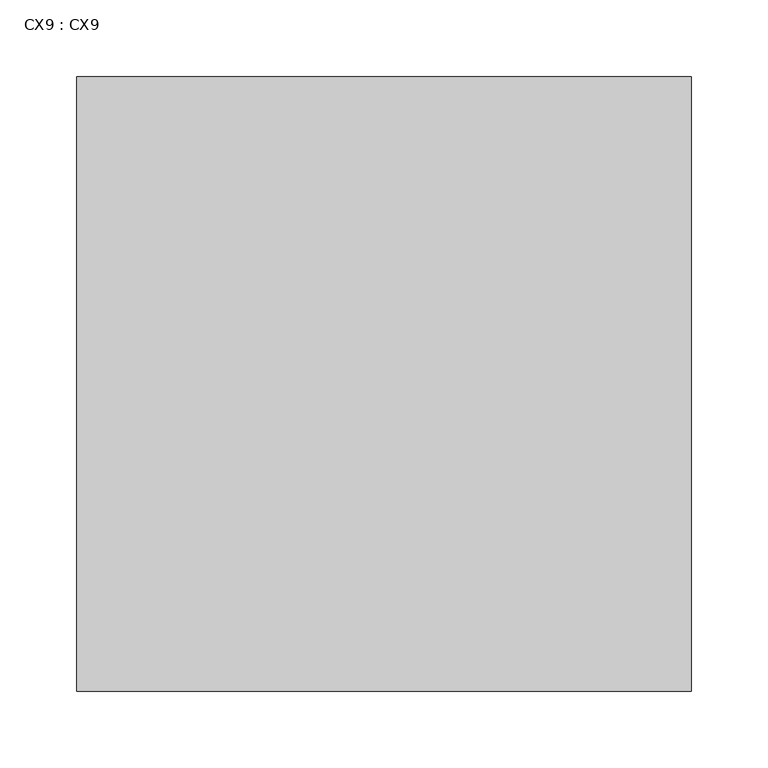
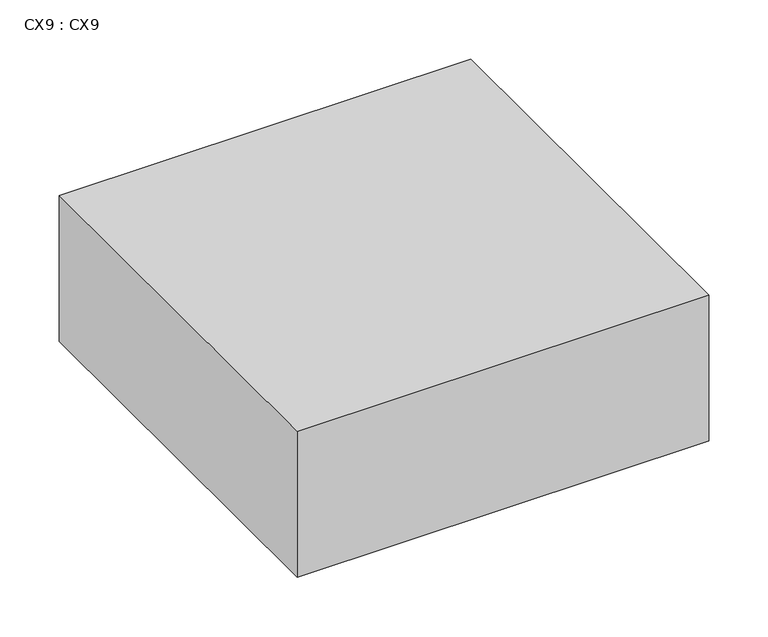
"""IFC4 building model written with IfcOpenShell, lengths in millimetres: proxy geometry, CX9 : CX9."""

import ifcopenshell
import ifcopenshell.guid

model = None  # the IFC model being written
_history = None  # IfcOwnerHistory: only IFC2X3 demands one
_inside = {}  # id of a spatial element -> (the spatial element, [elements in it])
_under = {}  # id of a project, library or spatial element -> (it, [spatial elements below it])
_declared = {}  # id of a project -> (the project, [libraries it declares])
_typed = {}  # id of a type object -> (the type object, [elements of that type])
_made_of = {}  # id of a material, layer set ... -> (it, [elements and type objects made of it])


def new_model(schema):
    """Start an empty IFC model of exactly this schema.

    Asked for "IFC4X3", IfcOpenShell would pick the latest addendum, in which some entities
    have other attributes; the version numbers below select the first issue.
    IFC2X3 requires an IfcOwnerHistory on every rooted entity: one is made here for all.
    """
    global model, _history
    if schema == "IFC4X3":
        model = ifcopenshell.file(schema_version=(4, 3, 0, 0))
    else:
        model = ifcopenshell.file(schema=schema)
    _inside.clear()
    _under.clear()
    _declared.clear()
    _typed.clear()
    _made_of.clear()
    _history = None
    if model.schema == "IFC2X3":
        org = make("IfcOrganization", Name="unknown")
        user = make(
            "IfcPersonAndOrganization",
            ThePerson=make("IfcPerson", FamilyName="unknown"),
            TheOrganization=org,
        )
        app = make(
            "IfcApplication",
            ApplicationDeveloper=org,
            Version="unknown",
            ApplicationFullName="unknown",
            ApplicationIdentifier="unknown",
        )
        _history = make(
            "IfcOwnerHistory",
            OwningUser=user,
            OwningApplication=app,
            ChangeAction="ADDED",
            CreationDate=0,
        )
    return model


def make(cls, **values):
    """One entity of the class cls with the attributes given. An attribute that is None is left unset."""
    return model.create_entity(
        cls, **{name: value for name, value in values.items() if value is not None}
    )


def rooted(cls, **values):
    """An entity with a GlobalId (a new one), such as an element, a storey or a relation."""
    return make(cls, GlobalId=ifcopenshell.guid.new(), OwnerHistory=_history, **values)


def si_unit(unit_type, name, prefix=None):
    """IfcSIUnit, for example si_unit("LENGTHUNIT", "METRE", prefix="MILLI")."""
    return make("IfcSIUnit", UnitType=unit_type, Prefix=prefix, Name=name)


def assignment(units):
    """IfcUnitAssignment: the units of a project."""
    return None if units is None else make("IfcUnitAssignment", Units=units)


def point(xyz):
    """IfcCartesianPoint."""
    return None if xyz is None else make("IfcCartesianPoint", Coordinates=xyz)


def direction(xyz):
    """IfcDirection."""
    return None if xyz is None else make("IfcDirection", DirectionRatios=xyz)


def frame(location, z_axis=None, x_axis=None):
    """IfcAxis2Placement3D, a coordinate frame: its origin and axes. An axis left out is left unset."""
    return make(
        "IfcAxis2Placement3D",
        Location=point(location),
        Axis=direction(z_axis),
        RefDirection=direction(x_axis),
    )


def origin():
    """The frame at (0, 0, 0) with its axes left unset."""
    return frame((0.0, 0.0, 0.0))


def place(relative_to, where):
    """IfcLocalPlacement: puts the frame where relative to a parent placement (None: the world)."""
    return make(
        "IfcLocalPlacement", PlacementRelTo=relative_to, RelativePlacement=where
    )


def context(
    kind, dimensions, precision=None, world=None, true_north=None, identifier=None
):
    """IfcGeometricRepresentationContext, for example the 3D "Model" context."""
    return make(
        "IfcGeometricRepresentationContext",
        ContextIdentifier=identifier,
        ContextType=kind,
        CoordinateSpaceDimension=dimensions,
        Precision=precision,
        WorldCoordinateSystem=world,
        TrueNorth=true_north,
    )


def project(units=None, contexts=None):
    """IfcProject with its units and contexts."""
    return rooted(
        "IfcProject",
        Name="project",
        RepresentationContexts=contexts,
        UnitsInContext=assignment(units),
    )


def spatial(cls, under=None, at=None, **own):
    """A site, building, storey or space (cls), placed at a placement, below another one or the project."""
    s = rooted(cls, ObjectPlacement=at, **own)
    if under is not None:
        _under.setdefault(under.id(), (under, []))[1].append(s)
    return s


def polyline(points):
    """IfcPolyline through the points."""
    return make("IfcPolyline", Points=[point(p) for p in points])


def outline(outer, holes=None, kind="AREA"):
    """IfcArbitraryClosedProfileDef: a profile drawn as a closed curve; with holes, ...WithVoids."""
    if holes is None:
        return make("IfcArbitraryClosedProfileDef", ProfileType=kind, OuterCurve=outer)
    return make(
        "IfcArbitraryProfileDefWithVoids",
        ProfileType=kind,
        OuterCurve=outer,
        InnerCurves=holes,
    )


def extrude(swept, where, along, depth):
    """IfcExtrudedAreaSolid: the profile swept, set in the frame where, extruded along a direction by depth."""
    return make(
        "IfcExtrudedAreaSolid",
        SweptArea=swept,
        Position=where,
        ExtrudedDirection=direction(along),
        Depth=depth,
    )


def shape(context_of_items, identifier, shape_type, items):
    """IfcShapeRepresentation: the items that make up one representation, for example the "Body"."""
    return make(
        "IfcShapeRepresentation",
        ContextOfItems=context_of_items,
        RepresentationIdentifier=identifier,
        RepresentationType=shape_type,
        Items=items,
    )


def source(mapping_origin, context_of_items, identifier, shape_type, items):
    """IfcRepresentationMap: a shape defined once, which mapped items show again and again."""
    return make(
        "IfcRepresentationMap",
        MappingOrigin=mapping_origin,
        MappedRepresentation=shape(context_of_items, identifier, shape_type, items),
    )


def transform(
    local_origin,
    x_axis=None,
    y_axis=None,
    z_axis=None,
    scale=None,
    scale2=None,
    scale3=None,
    uniform=True,
):
    """IfcCartesianTransformationOperator3D, or its non-uniform kind. x_axis, y_axis, z_axis: its Axis1, 2, 3."""
    if uniform:
        return make(
            "IfcCartesianTransformationOperator3D",
            Axis1=direction(x_axis),
            Axis2=direction(y_axis),
            LocalOrigin=point(local_origin),
            Scale=scale,
            Axis3=direction(z_axis),
        )
    return make(
        "IfcCartesianTransformationOperator3DnonUniform",
        Axis1=direction(x_axis),
        Axis2=direction(y_axis),
        LocalOrigin=point(local_origin),
        Scale=scale,
        Axis3=direction(z_axis),
        Scale2=scale2,
        Scale3=scale3,
    )


def mapped(mapping_source, mapping_target):
    """IfcMappedItem: shows the shape of a source again, moved by a transform."""
    return make(
        "IfcMappedItem", MappingSource=mapping_source, MappingTarget=mapping_target
    )


def made_of(thing, what):
    """Note that an element or type object is made of a material, layer set ...; save() writes the relation."""
    if what is not None:
        _made_of.setdefault(what.id(), (what, []))[1].append(thing)
    return thing


def element(
    cls,
    number,
    at=None,
    inside=None,
    cuts=None,
    type_object=None,
    material=None,
    context=None,
    identifier="Body",
    shape_type=None,
    held_by="IfcProductDefinitionShape",
    body=None,
    shapes=None,
    **own,
):
    """One element of the class cls, such as IfcWall. Its Tag is "e" and its number.

    at: its placement. inside: the storey or other place that contains it. cuts: it is an
    opening in that element (IfcRelVoidsElement). A single representation is given by context,
    identifier, shape_type and body (its items); several are given by shapes. held_by: the class
    of the entity that holds the representations. save() writes the other relations.
    """
    e = rooted(cls, Tag="e%d" % number, ObjectPlacement=at, **own)
    if body is not None:
        shapes = [shape(context, identifier, shape_type, body)]
    if shapes is not None:
        e.Representation = make(held_by, Representations=shapes)
    if inside is not None:
        _inside.setdefault(inside.id(), (inside, []))[1].append(e)
    if cuts is not None:
        rooted(
            "IfcRelVoidsElement", RelatingBuildingElement=cuts, RelatedOpeningElement=e
        )
    if type_object is not None:
        _typed.setdefault(type_object.id(), (type_object, []))[1].append(e)
    return made_of(e, material)


def aggregate(whole, parts):
    """IfcRelAggregates: a whole, such as a stair, and the parts it consists of."""
    return rooted("IfcRelAggregates", RelatingObject=whole, RelatedObjects=parts)


def save(model, path):
    """Write the relations noted so far, then the file.

    IfcRelAggregates (storeys below a building ...), IfcRelContainedInSpatialStructure (elements
    in a storey), IfcRelDefinesByType, IfcRelAssociatesMaterial and IfcRelDeclares: one each for
    every whole, place, type object, material and project.
    """
    for whole, parts in _under.values():
        aggregate(whole, parts)
    for where, things in _inside.values():
        rooted(
            "IfcRelContainedInSpatialStructure",
            RelatedElements=things,
            RelatingStructure=where,
        )
    for kind, things in _typed.values():
        rooted("IfcRelDefinesByType", RelatedObjects=things, RelatingType=kind)
    for what, things in _made_of.values():
        rooted("IfcRelAssociatesMaterial", RelatedObjects=things, RelatingMaterial=what)
    for by, libraries in _declared.values():
        rooted("IfcRelDeclares", RelatingContext=by, RelatedDefinitions=libraries)
    model.write(path)


def cx9_cx9_07a0b14d(model_context):
    return source(origin(), model_context, "Body", "SweptSolid", [
        extrude(outline(polyline([(8135.81, 14966.3), (8535.81, 14966.3), (8535.81, 14566.3), (8135.81, 14566.3), (8135.81, 14966.3)])), frame((0.0, 0.0, 2870.0), z_axis=(0.0, 0.0, 1.0), x_axis=(1.0, 0.0, 0.0)), (0.0, 0.0, 1.0), 150.0),
    ])


if __name__ == "__main__":
    model = new_model("IFC4")
    model_context = context("Model", 3, world=origin())
    ifc_project = project(units=[si_unit("LENGTHUNIT", "METRE", prefix="MILLI")], contexts=[model_context])
    site = spatial("IfcSite", under=ifc_project)
    building = spatial("IfcBuilding", under=site)
    placement = place(None, origin())
    cx9_cx9_shape = cx9_cx9_07a0b14d(model_context)
    element("IfcBuildingElementProxy", 1, Name="CX9 : CX9", ObjectType="CX9 : CX9", at=placement, inside=building, context=model_context, shape_type="MappedRepresentation", body=[
        mapped(cx9_cx9_shape, transform((0.0, 0.0, 0.0), x_axis=(1.0, 0.0, 0.0), y_axis=(0.0, 1.0, 0.0), z_axis=(0.0, 0.0, 1.0))),
    ])
    save(model, "model.ifc")
